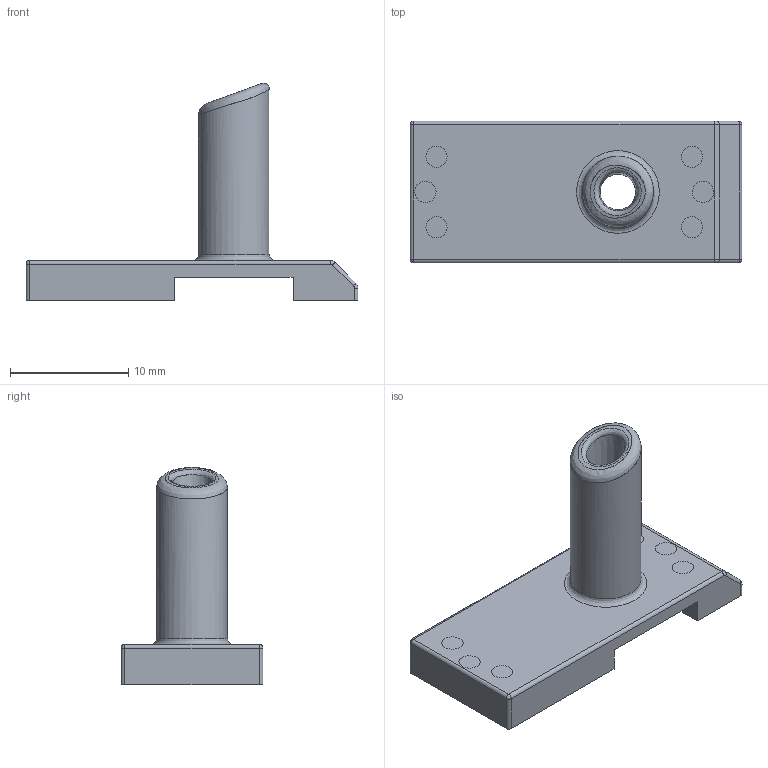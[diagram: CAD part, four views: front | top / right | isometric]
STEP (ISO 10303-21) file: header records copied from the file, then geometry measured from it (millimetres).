
FILE_DESCRIPTION((''),'2;1');
FILE_NAME('J:\Projekte\zws\Gehaeusetechnik ZWS\Gehaeuse F20 Inventor\zws-SoundPipe.stp','2012-02-01T11:13:41',('Oliver Liedtke'),(''),'Autodesk Inventor 2009','Autodesk Inventor 2009','');
FILE_SCHEMA(('AUTOMOTIVE_DESIGN { 1 0 10303 214 1 1 1 1 }'));
Length unit declared in the file: millimetre
Products named in the file (4): SoundPipes dieser Welt; KÖRA Aufnahme3; SoundPipe zws1; SoundPipe
Assembly tree (3 placements, depth 2):
  SoundPipes dieser Welt
    KÖRA Aufnahme3
    SoundPipe zws1
    SoundPipe
Bounding box: 28.1 x 12 x 18.4 mm (x, y, z)
Volume: 2920.4 mm3; surface area: 4088.9 mm2
Topology: 3 solids, 3 shells, 165 faces, 432 edges, 264 vertices
Faces by surface type: plane 66, cylinder 56, bspline 25, cone 9, sphere 6, torus 3
Full cylindrical faces by diameter (mm): 1.8 x6, 6 x3
Entity records: 11506 total; most frequent: CARTESIAN_POINT 7537, DIRECTION 820, ORIENTED_EDGE 792, EDGE_CURVE 396, AXIS2_PLACEMENT_3D 304, VERTEX_POINT 252, VECTOR 212, LINE 212
